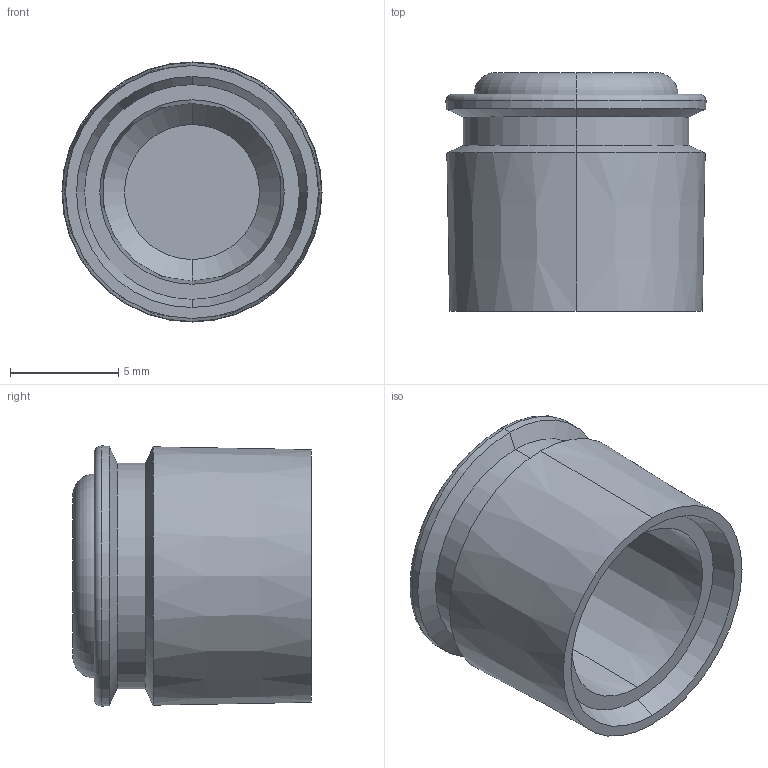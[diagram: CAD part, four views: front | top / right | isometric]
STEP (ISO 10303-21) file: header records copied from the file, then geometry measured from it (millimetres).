
FILE_DESCRIPTION (( 'STEP AP203' ), '1' );
FILE_NAME ('plc-pg-9-00.00.004 Óïëîòíèòåëü (PG9) #sealant (PG9)#.STEP', '2024-04-24T07:53:10', ( '' ), ( '' ), 'SwSTEP 2.0', 'SolidWorks 2021', '' );
FILE_SCHEMA (( 'CONFIG_CONTROL_DESIGN' ));
Length unit declared in the file: millimetre
Products named in the file (1): plc-pg-9-00.00.004 Óïëîòíèòåëü (PG9) #sealant (PG9)#
Bounding box: 11.99 x 11 x 11.99 mm (x, y, z)
Volume: 552.4 mm3; surface area: 867.2 mm2
Topology: 1 solids, 1 shells, 25 faces, 48 edges, 28 vertices
Faces by surface type: cone 14, plane 5, torus 4, cylinder 2
Entity records: 715 total; most frequent: DIRECTION 132, CARTESIAN_POINT 102, ORIENTED_EDGE 96, AXIS2_PLACEMENT_3D 58, EDGE_CURVE 48, CIRCLE 32, VERTEX_POINT 28, EDGE_LOOP 28
